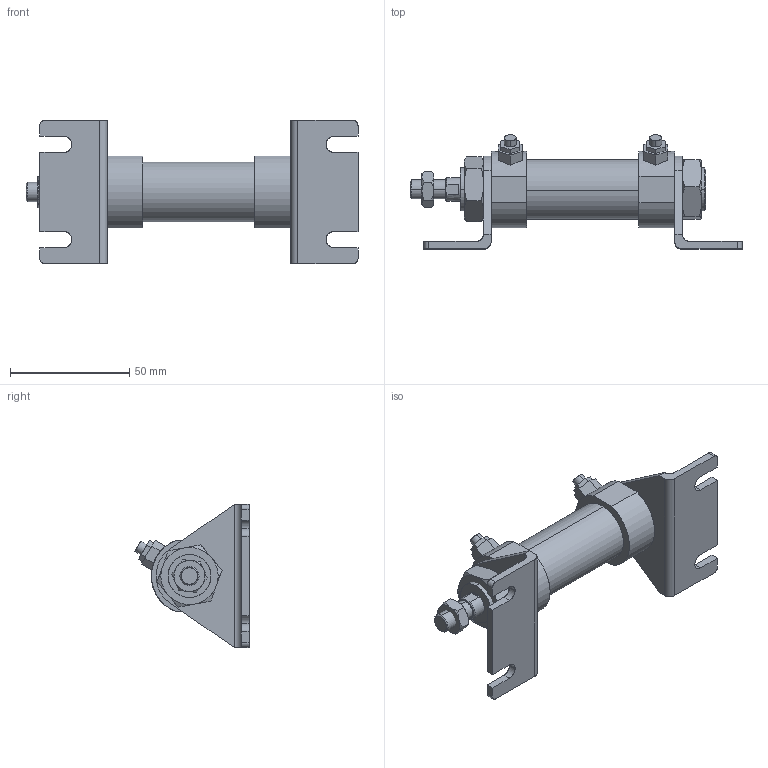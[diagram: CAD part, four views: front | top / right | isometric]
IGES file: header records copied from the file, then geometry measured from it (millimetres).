
Start section: SolidWorks IGES file using analytic representation for surfaces
Global section: file name: C:\Users\Toshiba\Desktop\JG2-20-15-L.IGS; native system: SolidWorks 2014; preprocessor: SolidWorks 2014; author: Toshiba; date: 160419.083327; units: millimetre
Bounding box: 139.2 x 47.9 x 60 mm (x, y, z)
Surface area: 30001.9 mm2 (no closed solid volume)
Topology: 0 solids, 0 shells, 212 faces, 3156 edges, 3152 vertices
Faces by surface type: bspline 142, revolution 70
